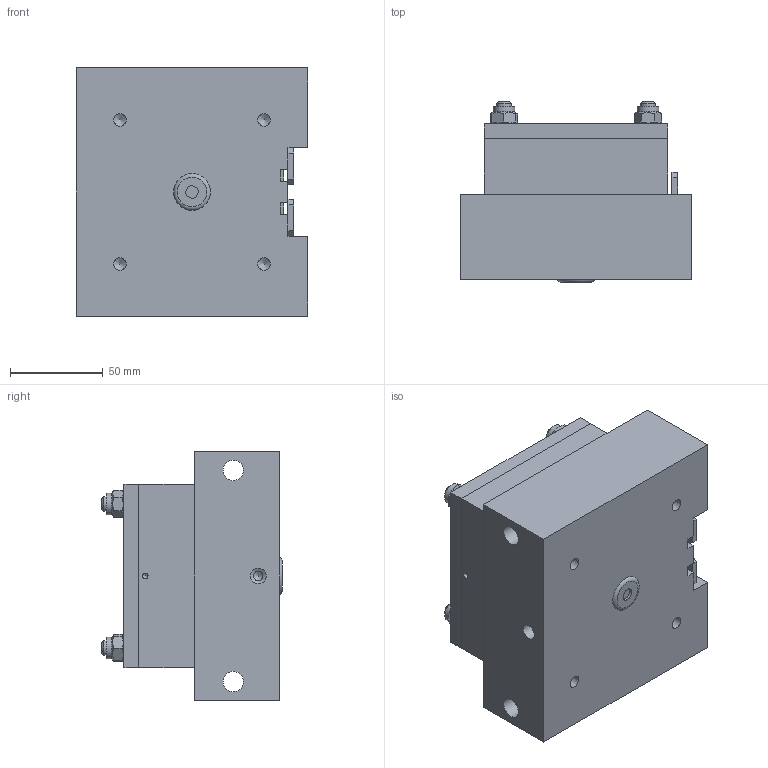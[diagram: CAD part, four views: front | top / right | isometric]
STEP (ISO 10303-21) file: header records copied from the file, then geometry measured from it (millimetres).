
FILE_DESCRIPTION((''),'2;1');
FILE_NAME('C:\VaultWork\Zeichnungen\Maßblätter\Multizylinder\M 90\M90-12\M01801-3-1 Maßblatt Multizylinder M90-2-12 berührungslose Abfrage.stp','2013-07-02T16:11:39',('Sergeew'),(''),'Autodesk Inventor 2012','Autodesk Inventor 2012','');
FILE_SCHEMA(('AUTOMOTIVE_DESIGN { 1 0 10303 214 1 1 1 1 }'));
Length unit declared in the file: millimetre
Products named in the file (1): M01801-3-1 Maßblatt Multizylinder M90-2-12 berührungslose Abfrage
Bounding box: 125 x 97.5 x 134 mm (x, y, z)
Volume: 1088876.9 mm3; surface area: 94507.1 mm2
Topology: 1 solids, 5 shells, 186 faces, 442 edges, 286 vertices
Faces by surface type: plane 118, cylinder 40, cone 27, torus 1
Full cylindrical faces by diameter (mm): 3 x1, 4.3 x4, 5 x1, 6.647 x5, 8 x8, 8.566 x2, 9 x4, 10 x4, 11 x2, 11.6 x4, 15 x1
Entity records: 4764 total; most frequent: CARTESIAN_POINT 875, DIRECTION 766, ORIENTED_EDGE 684, EDGE_CURVE 342, AXIS2_PLACEMENT_3D 285, EDGE_LOOP 282, VERTEX_POINT 250, VECTOR 196
